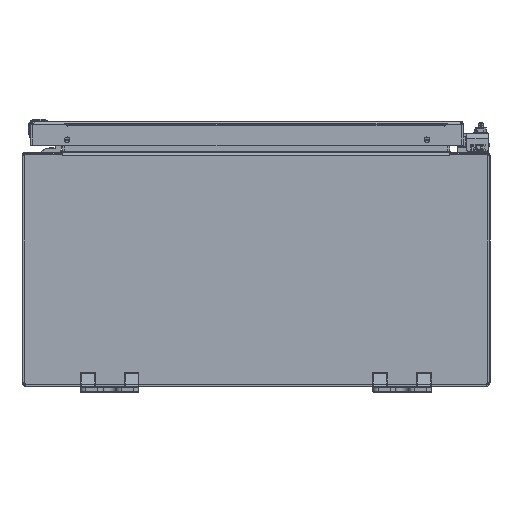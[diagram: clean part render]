
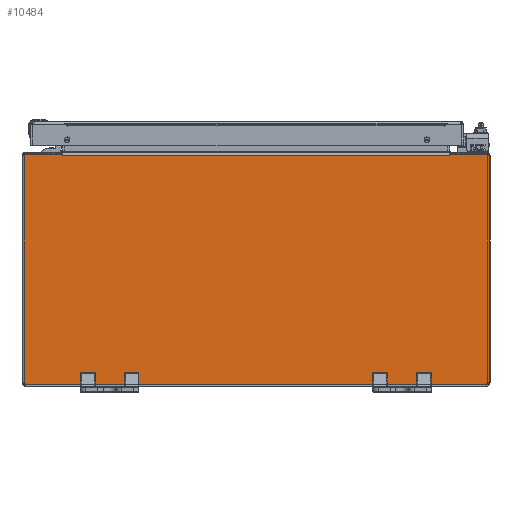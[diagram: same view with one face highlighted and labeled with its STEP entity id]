
A CAD part, front view. The second image highlights one B-rep face of the part: STEP entity #10484.
In plain terms, the highlighted planar face has unit normal (0, -1, 0).
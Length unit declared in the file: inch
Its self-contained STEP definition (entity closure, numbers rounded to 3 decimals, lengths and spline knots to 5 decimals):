
#9587=CARTESIAN_POINT('',(-7.887,0.,3.897));
#9588=DIRECTION('',(0.,-1.,0.));
#9589=DIRECTION('',(0.,0.,1.));
#9590=AXIS2_PLACEMENT_3D('',#9587,#9588,#9589);
#9595=CARTESIAN_POINT('',(7.887,0.,3.897));
#9596=DIRECTION('',(0.,-1.,0.));
#9597=DIRECTION('',(1.,0.,0.));
#9598=AXIS2_PLACEMENT_3D('',#9595,#9596,#9597);
#9603=DIRECTION('',(0.,0.,-1.));
#9604=VECTOR('',#9603,7.764);
#9605=CARTESIAN_POINT('',(7.967,0.,3.897));
#9606=LINE('',#9605,#9604);
#9610=CARTESIAN_POINT('',(7.887,0.,-3.867));
#9611=DIRECTION('',(0.,-1.,0.));
#9612=DIRECTION('',(0.,0.,-1.));
#9613=AXIS2_PLACEMENT_3D('',#9610,#9611,#9612);
#9618=CARTESIAN_POINT('',(-7.887,0.,-3.867));
#9619=DIRECTION('',(0.,-1.,0.));
#9620=DIRECTION('',(-1.,0.,0.));
#9621=AXIS2_PLACEMENT_3D('',#9618,#9619,#9620);
#9626=DIRECTION('',(0.,0.,1.));
#9627=VECTOR('',#9626,7.764);
#9628=CARTESIAN_POINT('',(-7.967,0.,-3.867));
#9629=LINE('',#9628,#9627);
#9654=DIRECTION('',(1.,0.,0.));
#9655=VECTOR('',#9654,15.774);
#9656=CARTESIAN_POINT('',(-7.887,0.,-3.947));
#9657=LINE('',#9656,#9655);
#9696=DIRECTION('',(-1.,0.,0.));
#9697=VECTOR('',#9696,1.262);
#9698=CARTESIAN_POINT('',(7.887,0.,3.977));
#9699=LINE('',#9698,#9697);
#9724=DIRECTION('',(0.,0.,-1.));
#9725=VECTOR('',#9724,0.094);
#9726=CARTESIAN_POINT('',(6.625,0.,3.977));
#9727=LINE('',#9726,#9725);
#9867=DIRECTION('',(1.,0.,0.));
#9868=VECTOR('',#9867,13.25);
#9869=CARTESIAN_POINT('',(-6.625,0.,3.883));
#9870=LINE('',#9869,#9868);
#9911=DIRECTION('',(0.,0.,1.));
#9912=VECTOR('',#9911,0.094);
#9913=CARTESIAN_POINT('',(-6.625,0.,3.883));
#9914=LINE('',#9913,#9912);
#9946=DIRECTION('',(-1.,0.,0.));
#9947=VECTOR('',#9946,1.262);
#9948=CARTESIAN_POINT('',(-6.625,0.,3.977));
#9949=LINE('',#9948,#9947);
#10337=CARTESIAN_POINT('',(-6.625,0.,3.883));
#10338=CARTESIAN_POINT('',(6.625,0.,3.883));
#10339=VERTEX_POINT('',#10337);
#10340=VERTEX_POINT('',#10338);
#10413=CARTESIAN_POINT('',(6.625,0.,3.977));
#10415=VERTEX_POINT('',#10413);
#10417=CARTESIAN_POINT('',(-6.625,0.,3.977));
#10419=VERTEX_POINT('',#10417);
#10421=CARTESIAN_POINT('',(-7.887,0.,3.977));
#10422=CARTESIAN_POINT('',(-7.967,0.,3.897));
#10423=VERTEX_POINT('',#10421);
#10424=VERTEX_POINT('',#10422);
#10429=CARTESIAN_POINT('',(-7.967,0.,-3.867));
#10430=CARTESIAN_POINT('',(-7.887,0.,-3.947));
#10431=VERTEX_POINT('',#10429);
#10432=VERTEX_POINT('',#10430);
#10437=CARTESIAN_POINT('',(7.967,0.,3.897));
#10438=CARTESIAN_POINT('',(7.887,0.,3.977));
#10439=VERTEX_POINT('',#10437);
#10440=VERTEX_POINT('',#10438);
#10445=CARTESIAN_POINT('',(7.887,0.,-3.947));
#10446=CARTESIAN_POINT('',(7.967,0.,-3.867));
#10447=VERTEX_POINT('',#10445);
#10448=VERTEX_POINT('',#10446);
#10453=CARTESIAN_POINT('',(0.,0.,0.));
#10454=DIRECTION('',(0.,-1.,0.));
#10455=DIRECTION('',(-1.,0.,0.));
#10456=AXIS2_PLACEMENT_3D('',#10453,#10454,#10455);
#10457=PLANE('',#10456);
#10459=ORIENTED_EDGE('',*,*,#10458,.F.);
#10461=ORIENTED_EDGE('',*,*,#10460,.F.);
#10463=ORIENTED_EDGE('',*,*,#10462,.F.);
#10465=ORIENTED_EDGE('',*,*,#10464,.T.);
#10467=ORIENTED_EDGE('',*,*,#10466,.F.);
#10469=ORIENTED_EDGE('',*,*,#10468,.F.);
#10471=ORIENTED_EDGE('',*,*,#10470,.F.);
#10473=ORIENTED_EDGE('',*,*,#10472,.T.);
#10475=ORIENTED_EDGE('',*,*,#10474,.F.);
#10477=ORIENTED_EDGE('',*,*,#10476,.F.);
#10479=ORIENTED_EDGE('',*,*,#10478,.F.);
#10481=ORIENTED_EDGE('',*,*,#10480,.T.);
#10482=EDGE_LOOP('',(#10459,#10461,#10463,#10465,#10467,#10469,#10471,#10473,
#10475,#10477,#10479,#10481));
#10483=FACE_OUTER_BOUND('',#10482,.F.);
#9591=CIRCLE('',#9590,0.08);
#9599=CIRCLE('',#9598,0.08);
#9614=CIRCLE('',#9613,0.08);
#9622=CIRCLE('',#9621,0.08);
#10458=EDGE_CURVE('',#10423,#10424,#9591,.T.);
#10460=EDGE_CURVE('',#10419,#10423,#9949,.T.);
#10462=EDGE_CURVE('',#10339,#10419,#9914,.T.);
#10464=EDGE_CURVE('',#10339,#10340,#9870,.T.);
#10466=EDGE_CURVE('',#10415,#10340,#9727,.T.);
#10468=EDGE_CURVE('',#10440,#10415,#9699,.T.);
#10470=EDGE_CURVE('',#10439,#10440,#9599,.T.);
#10472=EDGE_CURVE('',#10439,#10448,#9606,.T.);
#10474=EDGE_CURVE('',#10447,#10448,#9614,.T.);
#10476=EDGE_CURVE('',#10432,#10447,#9657,.T.);
#10478=EDGE_CURVE('',#10431,#10432,#9622,.T.);
#10480=EDGE_CURVE('',#10431,#10424,#9629,.T.);
#10484=ADVANCED_FACE('',(#10483),#10457,.T.);
